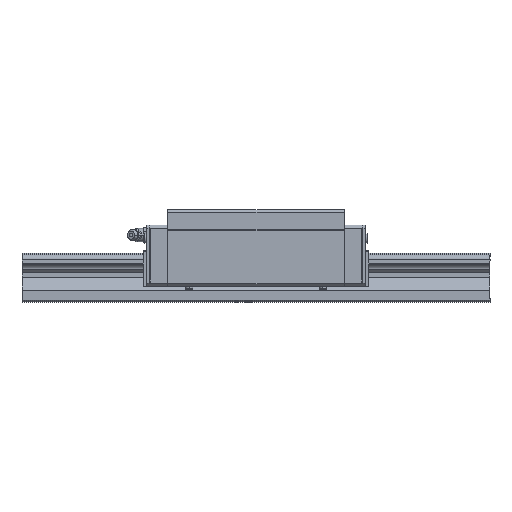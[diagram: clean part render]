
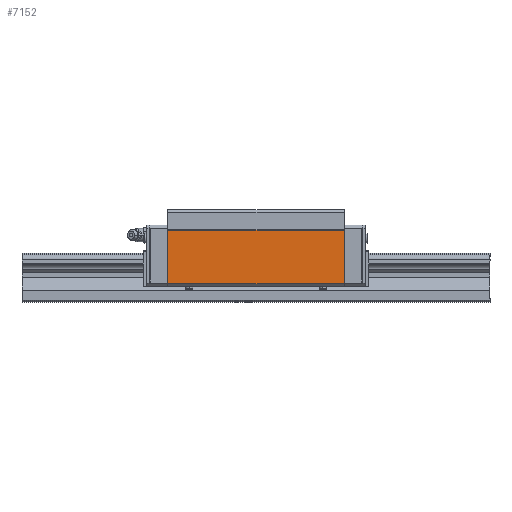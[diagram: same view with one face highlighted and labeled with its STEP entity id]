
A CAD part, top view. The second image highlights one B-rep face of the part: STEP entity #7152.
In plain terms, the highlighted planar face has unit normal (0, 0, 1).
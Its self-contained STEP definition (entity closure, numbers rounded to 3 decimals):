
#23 = CARTESIAN_POINT ( 'NONE',  ( 172.9, 43., 34.7 ) ) ;
#109 = CARTESIAN_POINT ( 'NONE',  ( 172.9, 43., 34.7 ) ) ;
#137 = LINE ( 'NONE', #3331, #4219 ) ;
#995 = DIRECTION ( 'NONE',  ( -1., 0., 0. ) ) ;
#1107 = EDGE_LOOP ( 'NONE', ( #6560, #9548, #3092, #9339 ) ) ;
#1375 = CARTESIAN_POINT ( 'NONE',  ( 67.1, 10.783, 34.7 ) ) ;
#1521 = CARTESIAN_POINT ( 'NONE',  ( 67.1, 7.5, 34.7 ) ) ;
#1855 = EDGE_CURVE ( 'NONE', #9719, #4336, #10195, .T. ) ;
#3092 = ORIENTED_EDGE ( 'NONE', *, *, #8485, .T. ) ;
#3331 = CARTESIAN_POINT ( 'NONE',  ( 172.9, 43., 34.7 ) ) ;
#4219 = VECTOR ( 'NONE', #995, 1000. ) ;
#4336 = VERTEX_POINT ( 'NONE', #8929 ) ;
#4849 = DIRECTION ( 'NONE',  ( -1., 0., 0. ) ) ;
#4935 = FACE_OUTER_BOUND ( 'NONE', #1107, .T. ) ;
#5542 = DIRECTION ( 'NONE',  ( 0., 0., 1. ) ) ;
#5601 = DIRECTION ( 'NONE',  ( 0., 1., 0. ) ) ;
#6092 = VERTEX_POINT ( 'NONE', #7997 ) ;
#6259 = LINE ( 'NONE', #9542, #7877 ) ;
#6412 = EDGE_CURVE ( 'NONE', #4336, #6092, #137, .T. ) ;
#6560 = ORIENTED_EDGE ( 'NONE', *, *, #1855, .T. ) ;
#7066 = DIRECTION ( 'NONE',  ( 0., -1., 0. ) ) ;
#7152 = ADVANCED_FACE ( 'NONE', ( #4935 ), #8697, .T. ) ;
#7877 = VECTOR ( 'NONE', #4849, 1000. ) ;
#7898 = VECTOR ( 'NONE', #7066, 1000. ) ;
#7942 = DIRECTION ( 'NONE',  ( 1., 0., 0. ) ) ;
#7950 = VERTEX_POINT ( 'NONE', #1375 ) ;
#7997 = CARTESIAN_POINT ( 'NONE',  ( 67.1, 43., 34.7 ) ) ;
#8095 = VECTOR ( 'NONE', #5601, 1000. ) ;
#8148 = LINE ( 'NONE', #1521, #7898 ) ;
#8322 = AXIS2_PLACEMENT_3D ( 'NONE', #23, #5542, #7942 ) ;
#8485 = EDGE_CURVE ( 'NONE', #6092, #7950, #8148, .T. ) ;
#8659 = CARTESIAN_POINT ( 'NONE',  ( 172.9, 10.783, 34.7 ) ) ;
#8697 = PLANE ( 'NONE',  #8322 ) ;
#8929 = CARTESIAN_POINT ( 'NONE',  ( 172.9, 43., 34.7 ) ) ;
#9226 = EDGE_CURVE ( 'NONE', #9719, #7950, #6259, .T. ) ;
#9339 = ORIENTED_EDGE ( 'NONE', *, *, #9226, .F. ) ;
#9542 = CARTESIAN_POINT ( 'NONE',  ( 172.9, 10.783, 34.7 ) ) ;
#9548 = ORIENTED_EDGE ( 'NONE', *, *, #6412, .T. ) ;
#9719 = VERTEX_POINT ( 'NONE', #8659 ) ;
#10195 = LINE ( 'NONE', #109, #8095 ) ;
